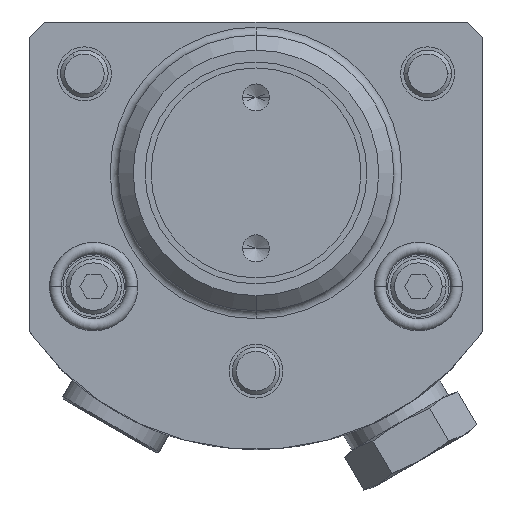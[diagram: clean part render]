
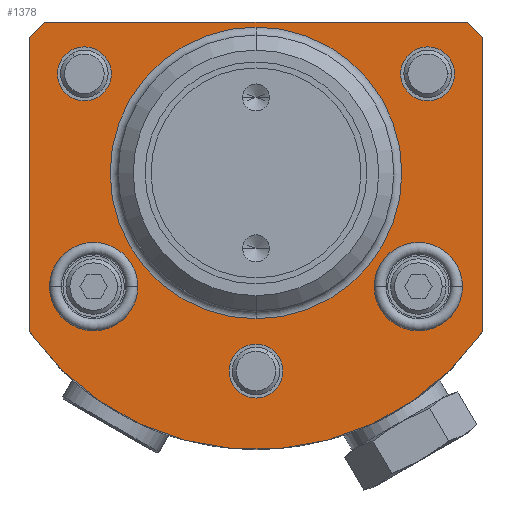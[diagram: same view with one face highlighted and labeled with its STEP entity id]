
A CAD part, front view. The second image highlights one B-rep face of the part: STEP entity #1378.
In plain terms, the highlighted planar face has unit normal (0, -1, 0).
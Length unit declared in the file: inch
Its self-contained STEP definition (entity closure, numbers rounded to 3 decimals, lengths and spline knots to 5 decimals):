
#1=DIRECTION('',(-0.707,0.,0.707));
#2=VECTOR('',#1,0.10607);
#3=CARTESIAN_POINT('',(1.125,0.,0.675));
#4=LINE('',#3,#2);
#5=DIRECTION('',(0.,0.,-1.));
#6=VECTOR('',#5,1.46557);
#7=CARTESIAN_POINT('',(1.125,0.,0.675));
#8=LINE('',#7,#6);
#9=CARTESIAN_POINT('',(0.,0.,0.));
#10=DIRECTION('',(0.,1.,0.));
#11=DIRECTION('',(0.818,0.,-0.575));
#12=AXIS2_PLACEMENT_3D('',#9,#10,#11);
#14=DIRECTION('',(0.,0.,1.));
#15=VECTOR('',#14,1.46557);
#16=CARTESIAN_POINT('',(-1.125,0.,-0.79057));
#17=LINE('',#16,#15);
#18=DIRECTION('',(-0.707,0.,-0.707));
#19=VECTOR('',#18,0.10607);
#20=CARTESIAN_POINT('',(-1.05,0.,0.75));
#21=LINE('',#20,#19);
#22=DIRECTION('',(1.,0.,0.));
#23=VECTOR('',#22,2.1);
#24=CARTESIAN_POINT('',(-1.05,0.,0.75));
#25=LINE('',#24,#23);
#26=CARTESIAN_POINT('',(0.,0.,0.));
#27=DIRECTION('',(0.,-1.,0.));
#28=DIRECTION('',(0.,0.,1.));
#29=AXIS2_PLACEMENT_3D('',#26,#27,#28);
#31=CARTESIAN_POINT('',(0.,0.,0.));
#32=DIRECTION('',(0.,-1.,0.));
#33=DIRECTION('',(0.,0.,-1.));
#34=AXIS2_PLACEMENT_3D('',#31,#32,#33);
#36=CARTESIAN_POINT('',(0.,0.,-0.985));
#37=DIRECTION('',(0.,-1.,0.));
#38=DIRECTION('',(1.,0.,0.));
#39=AXIS2_PLACEMENT_3D('',#36,#37,#38);
#41=CARTESIAN_POINT('',(0.,0.,-0.985));
#42=DIRECTION('',(0.,-1.,0.));
#43=DIRECTION('',(-1.,0.,0.));
#44=AXIS2_PLACEMENT_3D('',#41,#42,#43);
#46=CARTESIAN_POINT('',(-0.85304,0.,0.4925));
#47=DIRECTION('',(0.,-1.,0.));
#48=DIRECTION('',(1.,0.,0.));
#49=AXIS2_PLACEMENT_3D('',#46,#47,#48);
#51=CARTESIAN_POINT('',(-0.85304,0.,0.4925));
#52=DIRECTION('',(0.,-1.,0.));
#53=DIRECTION('',(-1.,0.,0.));
#54=AXIS2_PLACEMENT_3D('',#51,#52,#53);
#56=CARTESIAN_POINT('',(0.85304,0.,0.4925));
#57=DIRECTION('',(0.,-1.,0.));
#58=DIRECTION('',(1.,0.,0.));
#59=AXIS2_PLACEMENT_3D('',#56,#57,#58);
#61=CARTESIAN_POINT('',(0.85304,0.,0.4925));
#62=DIRECTION('',(0.,-1.,0.));
#63=DIRECTION('',(-1.,0.,0.));
#64=AXIS2_PLACEMENT_3D('',#61,#62,#63);
#66=CARTESIAN_POINT('',(-0.80686,0.,-0.56497));
#67=DIRECTION('',(0.,1.,0.));
#68=DIRECTION('',(-1.,0.,0.));
#69=AXIS2_PLACEMENT_3D('',#66,#67,#68);
#71=CARTESIAN_POINT('',(-0.80686,0.,-0.56497));
#72=DIRECTION('',(0.,1.,0.));
#73=DIRECTION('',(1.,0.,0.));
#74=AXIS2_PLACEMENT_3D('',#71,#72,#73);
#76=CARTESIAN_POINT('',(0.80686,0.,-0.56497));
#77=DIRECTION('',(0.,-1.,0.));
#78=DIRECTION('',(1.,0.,0.));
#79=AXIS2_PLACEMENT_3D('',#76,#77,#78);
#81=CARTESIAN_POINT('',(0.80686,0.,-0.56497));
#82=DIRECTION('',(0.,-1.,0.));
#83=DIRECTION('',(-1.,0.,0.));
#84=AXIS2_PLACEMENT_3D('',#81,#82,#83);
#1084=CARTESIAN_POINT('',(1.125,0.,-0.79057));
#1085=CARTESIAN_POINT('',(-1.125,0.,-0.79057));
#1086=VERTEX_POINT('',#1084);
#1087=VERTEX_POINT('',#1085);
#1088=CARTESIAN_POINT('',(1.125,0.,0.675));
#1089=CARTESIAN_POINT('',(1.05,0.,0.75));
#1090=VERTEX_POINT('',#1088);
#1091=VERTEX_POINT('',#1089);
#1092=CARTESIAN_POINT('',(-1.05,0.,0.75));
#1093=CARTESIAN_POINT('',(-1.125,0.,0.675));
#1094=VERTEX_POINT('',#1092);
#1095=VERTEX_POINT('',#1093);
#1117=CARTESIAN_POINT('',(0.,0.,0.725));
#1118=CARTESIAN_POINT('',(0.,0.,-0.725));
#1119=VERTEX_POINT('',#1117);
#1120=VERTEX_POINT('',#1118);
#1177=CARTESIAN_POINT('',(0.134,0.,-0.985));
#1178=CARTESIAN_POINT('',(-0.134,0.,-0.985));
#1179=VERTEX_POINT('',#1177);
#1180=VERTEX_POINT('',#1178);
#1194=CARTESIAN_POINT('',(-0.71904,0.,0.4925));
#1196=VERTEX_POINT('',#1194);
#1198=CARTESIAN_POINT('',(-0.98704,0.,0.4925));
#1200=VERTEX_POINT('',#1198);
#1210=CARTESIAN_POINT('',(0.98704,0.,0.4925));
#1212=VERTEX_POINT('',#1210);
#1214=CARTESIAN_POINT('',(0.71904,0.,0.4925));
#1216=VERTEX_POINT('',#1214);
#1275=CARTESIAN_POINT('',(-1.02636,0.,-0.56497));
#1276=CARTESIAN_POINT('',(-0.58736,0.,-0.56497));
#1277=VERTEX_POINT('',#1275);
#1278=VERTEX_POINT('',#1276);
#1301=CARTESIAN_POINT('',(1.02636,0.,-0.56497));
#1302=VERTEX_POINT('',#1301);
#1303=CARTESIAN_POINT('',(0.58736,0.,-0.56497));
#1304=VERTEX_POINT('',#1303);
#1323=CARTESIAN_POINT('',(0.,0.,0.));
#1324=DIRECTION('',(0.,1.,0.));
#1325=DIRECTION('',(1.,0.,0.));
#1326=AXIS2_PLACEMENT_3D('',#1323,#1324,#1325);
#1327=PLANE('',#1326);
#1329=ORIENTED_EDGE('',*,*,#1328,.F.);
#1331=ORIENTED_EDGE('',*,*,#1330,.T.);
#1333=ORIENTED_EDGE('',*,*,#1332,.T.);
#1335=ORIENTED_EDGE('',*,*,#1334,.T.);
#1337=ORIENTED_EDGE('',*,*,#1336,.F.);
#1339=ORIENTED_EDGE('',*,*,#1338,.T.);
#1340=EDGE_LOOP('',(#1329,#1331,#1333,#1335,#1337,#1339));
#1341=FACE_OUTER_BOUND('',#1340,.F.);
#1343=ORIENTED_EDGE('',*,*,#1342,.T.);
#1345=ORIENTED_EDGE('',*,*,#1344,.T.);
#1346=EDGE_LOOP('',(#1343,#1345));
#1347=FACE_BOUND('',#1346,.F.);
#1349=ORIENTED_EDGE('',*,*,#1348,.T.);
#1351=ORIENTED_EDGE('',*,*,#1350,.T.);
#1352=EDGE_LOOP('',(#1349,#1351));
#1353=FACE_BOUND('',#1352,.F.);
#1355=ORIENTED_EDGE('',*,*,#1354,.T.);
#1357=ORIENTED_EDGE('',*,*,#1356,.T.);
#1358=EDGE_LOOP('',(#1355,#1357));
#1359=FACE_BOUND('',#1358,.F.);
#1361=ORIENTED_EDGE('',*,*,#1360,.T.);
#1363=ORIENTED_EDGE('',*,*,#1362,.T.);
#1364=EDGE_LOOP('',(#1361,#1363));
#1365=FACE_BOUND('',#1364,.F.);
#1367=ORIENTED_EDGE('',*,*,#1366,.F.);
#1369=ORIENTED_EDGE('',*,*,#1368,.F.);
#1370=EDGE_LOOP('',(#1367,#1369));
#1371=FACE_BOUND('',#1370,.F.);
#1373=ORIENTED_EDGE('',*,*,#1372,.T.);
#1375=ORIENTED_EDGE('',*,*,#1374,.T.);
#1376=EDGE_LOOP('',(#1373,#1375));
#1377=FACE_BOUND('',#1376,.F.);
#1378=ADVANCED_FACE('',(#1341,#1347,#1353,#1359,#1365,#1371,#1377),#1327,.F.);
#13=CIRCLE('',#12,1.375);
#30=CIRCLE('',#29,0.725);
#35=CIRCLE('',#34,0.725);
#40=CIRCLE('',#39,0.134);
#45=CIRCLE('',#44,0.134);
#50=CIRCLE('',#49,0.134);
#55=CIRCLE('',#54,0.134);
#60=CIRCLE('',#59,0.134);
#65=CIRCLE('',#64,0.134);
#70=CIRCLE('',#69,0.2195);
#75=CIRCLE('',#74,0.2195);
#80=CIRCLE('',#79,0.2195);
#85=CIRCLE('',#84,0.2195);
#1328=EDGE_CURVE('',#1090,#1091,#4,.T.);
#1330=EDGE_CURVE('',#1090,#1086,#8,.T.);
#1332=EDGE_CURVE('',#1086,#1087,#13,.T.);
#1334=EDGE_CURVE('',#1087,#1095,#17,.T.);
#1336=EDGE_CURVE('',#1094,#1095,#21,.T.);
#1338=EDGE_CURVE('',#1094,#1091,#25,.T.);
#1342=EDGE_CURVE('',#1119,#1120,#30,.T.);
#1344=EDGE_CURVE('',#1120,#1119,#35,.T.);
#1348=EDGE_CURVE('',#1179,#1180,#40,.T.);
#1350=EDGE_CURVE('',#1180,#1179,#45,.T.);
#1354=EDGE_CURVE('',#1196,#1200,#50,.T.);
#1356=EDGE_CURVE('',#1200,#1196,#55,.T.);
#1360=EDGE_CURVE('',#1212,#1216,#60,.T.);
#1362=EDGE_CURVE('',#1216,#1212,#65,.T.);
#1366=EDGE_CURVE('',#1277,#1278,#70,.T.);
#1368=EDGE_CURVE('',#1278,#1277,#75,.T.);
#1372=EDGE_CURVE('',#1302,#1304,#80,.T.);
#1374=EDGE_CURVE('',#1304,#1302,#85,.T.);
